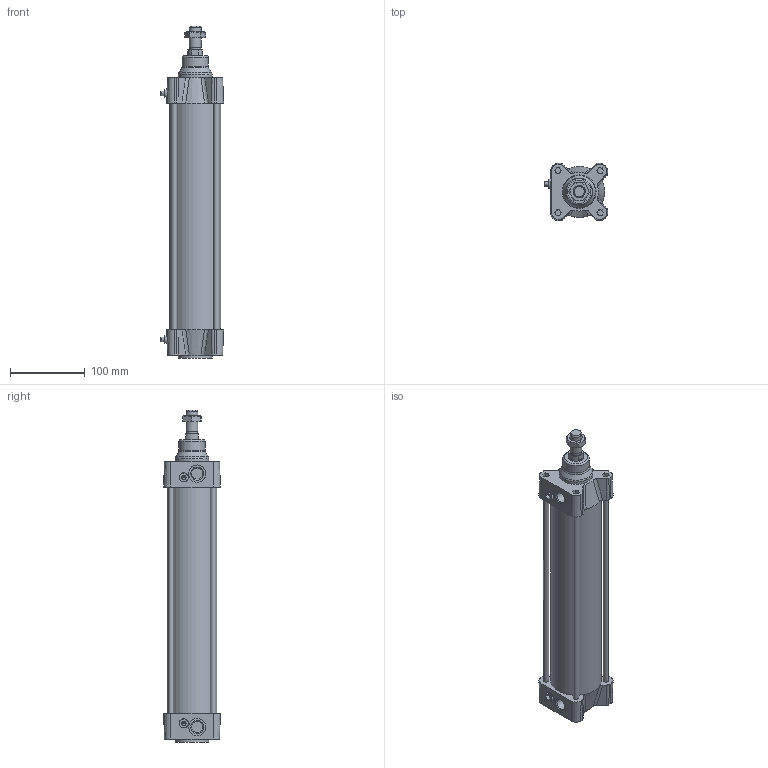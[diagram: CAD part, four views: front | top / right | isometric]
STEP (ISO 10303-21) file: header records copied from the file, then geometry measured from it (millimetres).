
FILE_DESCRIPTION(/* description */ (''),/* implementation_level */ '2;1');
FILE_NAME(/* name */ 'I:\Area Tecnica\Disegni\VARIE-3D\Componenti\1393-1394\139#_Ø_####_01\1393_063_0250_01.stp',/* time_stamp */ '2015-11-30T14:54:55+01:00',/* author */ ('maniean1'),/* organization */ ('Pneumax S.p.A.'),/* preprocessor_version */ 'ST-DEVELOPER v15.2',/* originating_system */ 'Autodesk Inventor 2014',/* authorisation */ '');
FILE_SCHEMA (('AUTOMOTIVE_DESIGN { 1 0 10303 214 3 1 1 }'));
Length unit declared in the file: millimetre
Products named in the file (4): 139#_063_0250_01-CIL; 139#_063_0250_01_ST; 1393_63_18F; 1393_063_0250_01
Bounding box: 84.5 x 76 x 444 mm (x, y, z)
Volume: 797582.7 mm3; surface area: 241842.3 mm2
Topology: 3 solids, 5 shells, 233 faces, 548 edges, 347 vertices
Faces by surface type: plane 138, cone 46, cylinder 34, bspline 12, torus 3
Full cylindrical faces by diameter (mm): 6 x4, 7.1 x4, 8 x8, 12 x2, 14.5 x2, 14.9 x2, 16 x1, 19.5 x1, 20 x2, 23 x2, 35 x1, 45 x2, 63 x2, 68 x1
Entity records: 6811 total; most frequent: CARTESIAN_POINT 1690, DIRECTION 1048, ORIENTED_EDGE 970, EDGE_CURVE 485, AXIS2_PLACEMENT_3D 407, VERTEX_POINT 329, EDGE_LOOP 310, LINE 234
